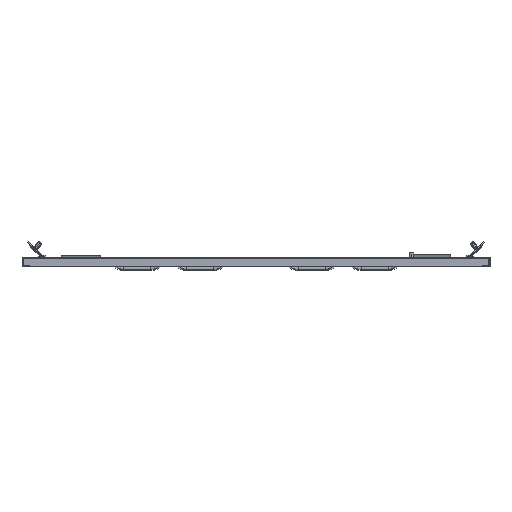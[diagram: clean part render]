
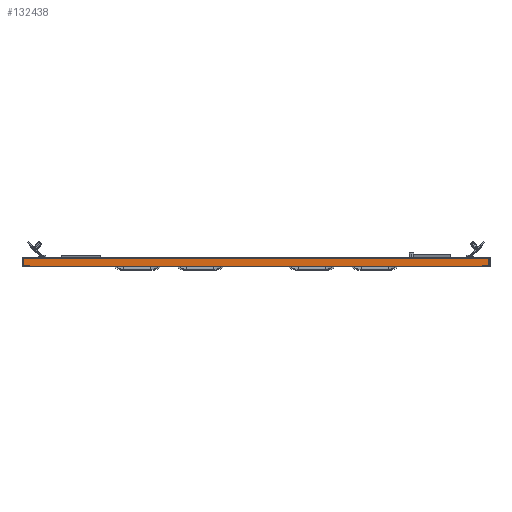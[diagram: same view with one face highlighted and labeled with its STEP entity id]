
A CAD part, front view. The second image highlights one B-rep face of the part: STEP entity #132438.
In plain terms, the highlighted planar face has unit normal (0, -1, 0).
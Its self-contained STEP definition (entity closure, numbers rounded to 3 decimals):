
#541 = EDGE_CURVE ( 'NONE', #117867, #135876, #64218, .T. ) ;
#3918 = CARTESIAN_POINT ( 'NONE',  ( -296.093, -1799.458, 4.435 ) ) ;
#6167 = LINE ( 'NONE', #31355, #98649 ) ;
#6849 = ORIENTED_EDGE ( 'NONE', *, *, #14062, .T. ) ;
#7015 = B_SPLINE_CURVE_WITH_KNOTS ( 'NONE', 3,
 ( #111786, #3918, #17283, #51954, #65311, #100011, #64524 ),
 .UNSPECIFIED., .F., .F.,
 ( 4, 3, 4 ),
 ( 0.005, 0.006, 0.007 ),
 .UNSPECIFIED. ) ;
#8496 = DIRECTION ( 'NONE',  ( 0., 0., -1. ) ) ;
#9129 = ORIENTED_EDGE ( 'NONE', *, *, #148336, .T. ) ;
#9530 = FACE_OUTER_BOUND ( 'NONE', #88219, .T. ) ;
#10289 = VECTOR ( 'NONE', #16214, 1000. ) ;
#11183 = ORIENTED_EDGE ( 'NONE', *, *, #70971, .F. ) ;
#13861 = DIRECTION ( 'NONE',  ( 0., 0., -1. ) ) ;
#14062 = EDGE_CURVE ( 'NONE', #121364, #125653, #55734, .T. ) ;
#14670 = ORIENTED_EDGE ( 'NONE', *, *, #35564, .T. ) ;
#15798 = VERTEX_POINT ( 'NONE', #42984 ) ;
#15868 = LINE ( 'NONE', #124489, #123340 ) ;
#16214 = DIRECTION ( 'NONE',  ( -1., 0., 0. ) ) ;
#16654 = CARTESIAN_POINT ( 'NONE',  ( 296.093, -1799.458, 5.55 ) ) ;
#17283 = CARTESIAN_POINT ( 'NONE',  ( -296.093, -1799.458, 4.721 ) ) ;
#17735 = ORIENTED_EDGE ( 'NONE', *, *, #541, .T. ) ;
#24408 = CARTESIAN_POINT ( 'NONE',  ( 296.093, -1799.458, 4.149 ) ) ;
#26834 = ORIENTED_EDGE ( 'NONE', *, *, #104572, .F. ) ;
#28463 = CARTESIAN_POINT ( 'NONE',  ( 0., -1799.458, 5.55 ) ) ;
#31355 = CARTESIAN_POINT ( 'NONE',  ( 297.5, -1799.458, 5.55 ) ) ;
#34664 = CARTESIAN_POINT ( 'NONE',  ( 296.093, -1799.458, 4.721 ) ) ;
#35564 = EDGE_CURVE ( 'NONE', #140077, #15798, #6167, .T. ) ;
#42984 = CARTESIAN_POINT ( 'NONE',  ( 297.5, -1799.458, 5.55 ) ) ;
#50534 = ORIENTED_EDGE ( 'NONE', *, *, #116490, .T. ) ;
#51316 = DIRECTION ( 'NONE',  ( -1., 0., 0. ) ) ;
#51954 = CARTESIAN_POINT ( 'NONE',  ( -296.093, -1799.458, 5.006 ) ) ;
#52737 = B_SPLINE_CURVE_WITH_KNOTS ( 'NONE', 3,
 ( #24408, #142500, #34664, #82708, #118883, #73207, #59839 ),
 .UNSPECIFIED., .F., .F.,
 ( 4, 3, 4 ),
 ( 0.005, 0.006, 0.007 ),
 .UNSPECIFIED. ) ;
#53902 = CARTESIAN_POINT ( 'NONE',  ( -296.093, -1799.458, 5.55 ) ) ;
#55734 = LINE ( 'NONE', #80928, #118890 ) ;
#58747 = ORIENTED_EDGE ( 'NONE', *, *, #74346, .F. ) ;
#59839 = CARTESIAN_POINT ( 'NONE',  ( 296.093, -1799.458, 5.55 ) ) ;
#63252 = VERTEX_POINT ( 'NONE', #147003 ) ;
#64218 = LINE ( 'NONE', #112271, #138394 ) ;
#64524 = CARTESIAN_POINT ( 'NONE',  ( -296.093, -1799.458, 5.55 ) ) ;
#65311 = CARTESIAN_POINT ( 'NONE',  ( -296.093, -1799.458, 5.188 ) ) ;
#70656 = CARTESIAN_POINT ( 'NONE',  ( -309.582, -1799.458, 5.55 ) ) ;
#70971 = EDGE_CURVE ( 'NONE', #121364, #109170, #143818, .T. ) ;
#73207 = CARTESIAN_POINT ( 'NONE',  ( 296.093, -1799.458, 5.369 ) ) ;
#73784 = VERTEX_POINT ( 'NONE', #86926 ) ;
#74346 = EDGE_CURVE ( 'NONE', #140077, #125653, #15868, .T. ) ;
#77084 = VECTOR ( 'NONE', #96620, 1000. ) ;
#77099 = DIRECTION ( 'NONE',  ( 0., 0., 1. ) ) ;
#78040 = LINE ( 'NONE', #28463, #134082 ) ;
#80928 = CARTESIAN_POINT ( 'NONE',  ( -297.5, -1799.458, -6.45 ) ) ;
#81080 = CARTESIAN_POINT ( 'NONE',  ( 297.5, -1799.458, -6.45 ) ) ;
#82708 = CARTESIAN_POINT ( 'NONE',  ( 296.093, -1799.458, 5.006 ) ) ;
#84728 = CARTESIAN_POINT ( 'NONE',  ( 296.093, -1799.458, 4.149 ) ) ;
#86570 = LINE ( 'NONE', #99975, #142867 ) ;
#86926 = CARTESIAN_POINT ( 'NONE',  ( 296.093, -1799.458, 5.55 ) ) ;
#88219 = EDGE_LOOP ( 'NONE', ( #6849, #58747, #14670, #50534, #17735, #153281, #9129, #26834, #136025, #11183 ) ) ;
#90750 = VERTEX_POINT ( 'NONE', #53902 ) ;
#94435 = AXIS2_PLACEMENT_3D ( 'NONE', #116614, #140228, #117399 ) ;
#94544 = PLANE ( 'NONE',  #94435 ) ;
#96620 = DIRECTION ( 'NONE',  ( 1., 0., 0. ) ) ;
#98238 = CARTESIAN_POINT ( 'NONE',  ( -296.093, -1799.458, 5.55 ) ) ;
#98649 = VECTOR ( 'NONE', #103037, 1000. ) ;
#99975 = CARTESIAN_POINT ( 'NONE',  ( -296.093, -1799.458, -6.45 ) ) ;
#100011 = CARTESIAN_POINT ( 'NONE',  ( -296.093, -1799.458, 5.369 ) ) ;
#102624 = CARTESIAN_POINT ( 'NONE',  ( -297.5, -1799.458, 5.55 ) ) ;
#103037 = DIRECTION ( 'NONE',  ( 0., 0., 1. ) ) ;
#104572 = EDGE_CURVE ( 'NONE', #63252, #90750, #7015, .T. ) ;
#108413 = EDGE_CURVE ( 'NONE', #63252, #109170, #86570, .T. ) ;
#109170 = VERTEX_POINT ( 'NONE', #98238 ) ;
#111786 = CARTESIAN_POINT ( 'NONE',  ( -296.093, -1799.458, 4.149 ) ) ;
#111936 = DIRECTION ( 'NONE',  ( -1., 0., 0. ) ) ;
#112271 = CARTESIAN_POINT ( 'NONE',  ( 296.093, -1799.458, 5.55 ) ) ;
#116490 = EDGE_CURVE ( 'NONE', #15798, #117867, #137414, .T. ) ;
#116614 = CARTESIAN_POINT ( 'NONE',  ( 0., -1799.458, 4.149 ) ) ;
#117399 = DIRECTION ( 'NONE',  ( 0., 0., -1. ) ) ;
#117867 = VERTEX_POINT ( 'NONE', #16654 ) ;
#118883 = CARTESIAN_POINT ( 'NONE',  ( 296.093, -1799.458, 5.188 ) ) ;
#118890 = VECTOR ( 'NONE', #8496, 1000. ) ;
#121364 = VERTEX_POINT ( 'NONE', #102624 ) ;
#123340 = VECTOR ( 'NONE', #111936, 1000. ) ;
#124423 = EDGE_CURVE ( 'NONE', #135876, #73784, #52737, .T. ) ;
#124489 = CARTESIAN_POINT ( 'NONE',  ( 0., -1799.458, -6.45 ) ) ;
#125653 = VERTEX_POINT ( 'NONE', #152775 ) ;
#132438 = ADVANCED_FACE ( 'NONE', ( #9530 ), #94544, .F. ) ;
#134082 = VECTOR ( 'NONE', #51316, 1000. ) ;
#135852 = CARTESIAN_POINT ( 'NONE',  ( 309.582, -1799.458, 5.55 ) ) ;
#135876 = VERTEX_POINT ( 'NONE', #84728 ) ;
#136025 = ORIENTED_EDGE ( 'NONE', *, *, #108413, .T. ) ;
#137414 = LINE ( 'NONE', #135852, #10289 ) ;
#138394 = VECTOR ( 'NONE', #13861, 1000. ) ;
#140077 = VERTEX_POINT ( 'NONE', #81080 ) ;
#140228 = DIRECTION ( 'NONE',  ( 0., 1., 0. ) ) ;
#142500 = CARTESIAN_POINT ( 'NONE',  ( 296.093, -1799.458, 4.435 ) ) ;
#142867 = VECTOR ( 'NONE', #77099, 1000. ) ;
#143818 = LINE ( 'NONE', #70656, #77084 ) ;
#147003 = CARTESIAN_POINT ( 'NONE',  ( -296.093, -1799.458, 4.149 ) ) ;
#148336 = EDGE_CURVE ( 'NONE', #73784, #90750, #78040, .T. ) ;
#152775 = CARTESIAN_POINT ( 'NONE',  ( -297.5, -1799.458, -6.45 ) ) ;
#153281 = ORIENTED_EDGE ( 'NONE', *, *, #124423, .T. ) ;
